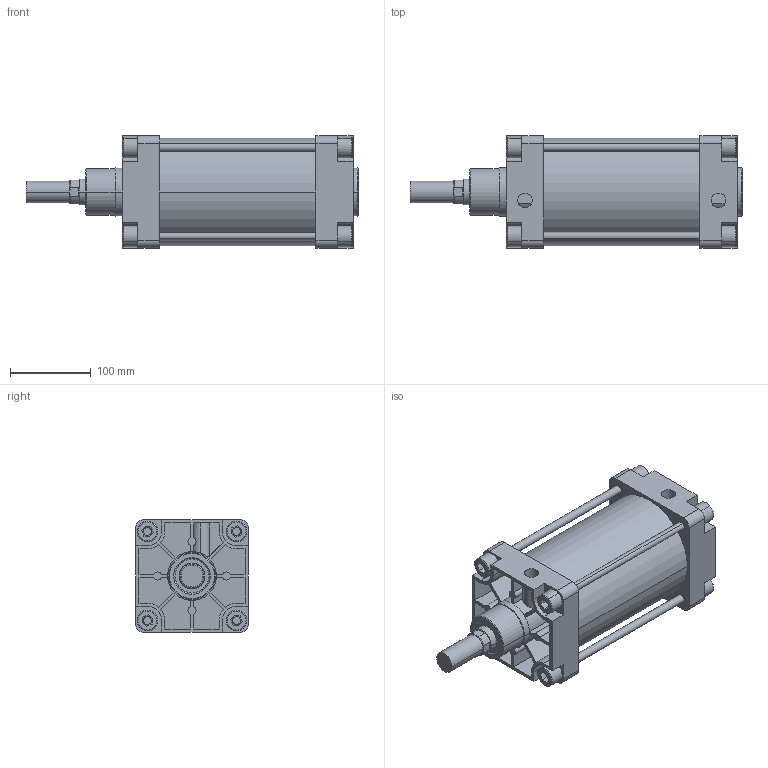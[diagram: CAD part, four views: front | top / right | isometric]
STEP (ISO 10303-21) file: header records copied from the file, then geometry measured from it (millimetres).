
FILE_DESCRIPTION(('CATIA V5 STEP Exchange'),'2;1');
FILE_NAME('D:\stp file for catalog\PNC\125\PNC 125-32-125-00.stp','2015-09-13T11:59:09+00:00',('none'),('none'),'Version 5-6 Release 2012','CATIA V5 STEP AP203','none');
FILE_SCHEMA(('CONFIG_CONTROL_DESIGN'));
Length unit declared in the file: millimetre
Products named in the file (1): PNC 125-32-125-00
Assembly tree (2 placements, depth 2):
  PNC 125-32-125-00
    #58
    #14773
Bounding box: 410 x 139 x 139 mm (x, y, z)
Volume: 2585724 mm3; surface area: 502661.1 mm2
Topology: 7 solids, 11 shells, 557 faces, 1420 edges, 938 vertices
Faces by surface type: plane 337, cylinder 174, torus 24, extrusion 16, cone 6
Entity records: 15682 total; most frequent: CARTESIAN_POINT 3254, ORIENTED_EDGE 2840, DIRECTION 1937, EDGE_CURVE 1420, VERTEX_POINT 938, VECTOR 903, LINE 887, AXIS2_PLACEMENT_3D 735
